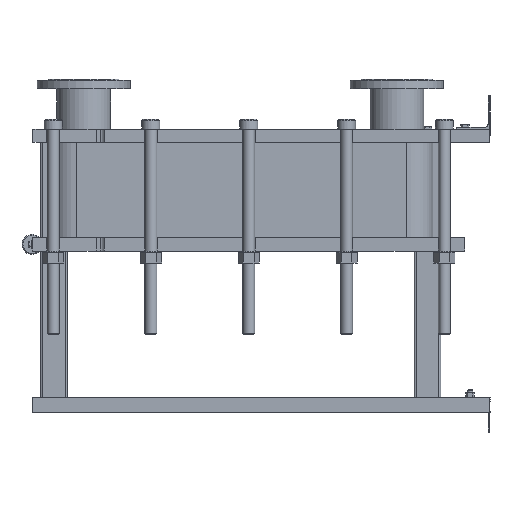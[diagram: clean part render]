
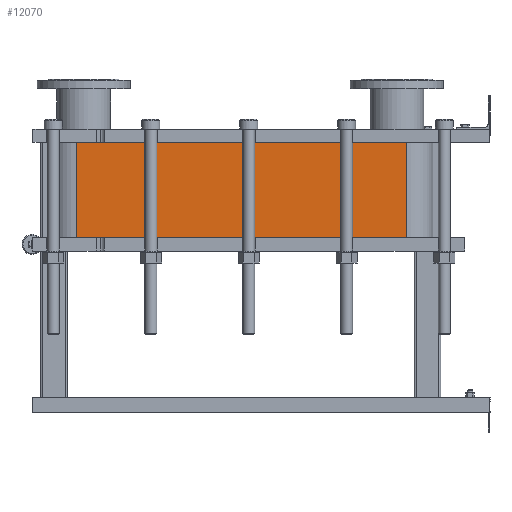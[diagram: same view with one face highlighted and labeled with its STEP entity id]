
A CAD part, left-side view. The second image highlights one B-rep face of the part: STEP entity #12070.
In plain terms, the highlighted planar face has unit normal (-1, 0, 0).
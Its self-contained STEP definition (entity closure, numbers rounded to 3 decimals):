
#1064=LINE('',#21140,#2164);
#1065=LINE('',#21144,#2165);
#1066=LINE('',#21146,#2166);
#1067=LINE('',#21147,#2167);
#2164=VECTOR('',#15790,10.);
#2165=VECTOR('',#15795,10.);
#2166=VECTOR('',#15796,10.);
#2167=VECTOR('',#15797,10.);
#3304=FACE_OUTER_BOUND('',#4091,.T.);
#4091=EDGE_LOOP('',(#9793,#9794,#9795,#9796));
#5677=VERTEX_POINT('',#21137);
#5678=VERTEX_POINT('',#21139);
#5679=VERTEX_POINT('',#21143);
#5680=VERTEX_POINT('',#21145);
#7118=EDGE_CURVE('',#5678,#5677,#1064,.T.);
#7120=EDGE_CURVE('',#5677,#5679,#1065,.T.);
#7121=EDGE_CURVE('',#5680,#5679,#1066,.T.);
#7122=EDGE_CURVE('',#5680,#5678,#1067,.T.);
#9793=ORIENTED_EDGE('',*,*,#7120,.T.);
#9794=ORIENTED_EDGE('',*,*,#7121,.F.);
#9795=ORIENTED_EDGE('',*,*,#7122,.T.);
#9796=ORIENTED_EDGE('',*,*,#7118,.T.);
#11441=PLANE('',#13191);
#12070=ADVANCED_FACE('',(#3304),#11441,.T.);
#13191=AXIS2_PLACEMENT_3D('',#21142,#15793,#15794);
#15790=DIRECTION('',(0.,0.,-1.));
#15793=DIRECTION('center_axis',(-1.,0.,0.));
#15794=DIRECTION('ref_axis',(0.,1.,0.));
#15795=DIRECTION('',(0.,-1.,0.));
#15796=DIRECTION('',(0.,0.,-1.));
#15797=DIRECTION('',(0.,1.,0.));
#21137=CARTESIAN_POINT('',(-248.152,1243.818,-286.35));
#21139=CARTESIAN_POINT('',(-248.152,1243.818,0.));
#21140=CARTESIAN_POINT('',(-248.152,1243.818,0.));
#21142=CARTESIAN_POINT('Origin',(-248.152,251.818,0.));
#21143=CARTESIAN_POINT('',(-248.152,251.818,-286.35));
#21144=CARTESIAN_POINT('',(-248.152,499.818,-286.35));
#21145=CARTESIAN_POINT('',(-248.152,251.818,0.));
#21146=CARTESIAN_POINT('',(-248.152,251.818,0.));
#21147=CARTESIAN_POINT('',(-248.152,251.818,0.));
